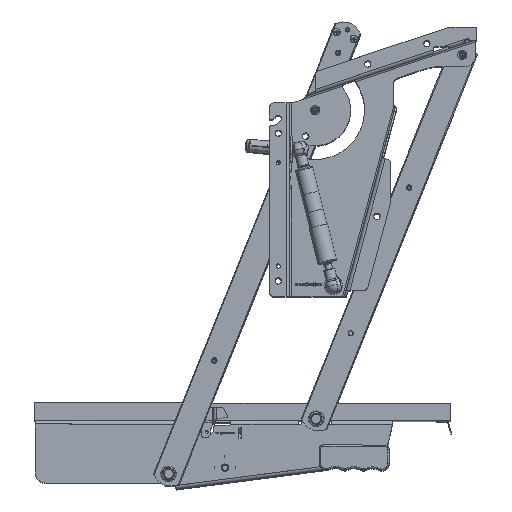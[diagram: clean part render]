
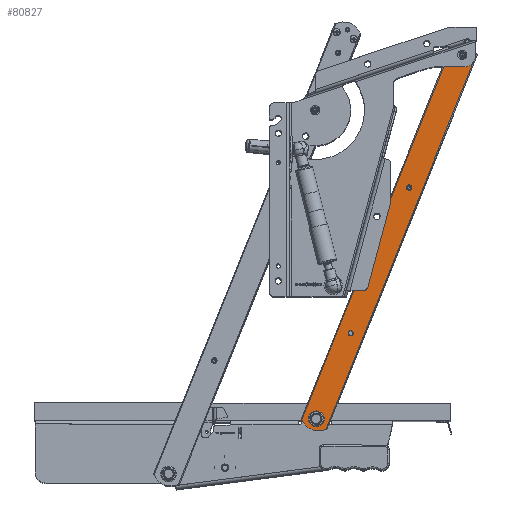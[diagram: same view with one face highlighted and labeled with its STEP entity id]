
A CAD part, top view. The second image highlights one B-rep face of the part: STEP entity #80827.
In plain terms, the highlighted planar face has unit normal (0, 0, 1).
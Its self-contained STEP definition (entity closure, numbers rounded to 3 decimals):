
#79488=DIRECTION('',(-0.372,-0.928,0.));
#79489=VECTOR('',#79488,438.566);
#79490=CARTESIAN_POINT('',(70.533,136.008,-32.));
#79491=LINE('',#79490,#79489);
#79492=CARTESIAN_POINT('',(78.207,117.539,-32.));
#79493=DIRECTION('',(0.,0.,-1.));
#79494=DIRECTION('',(-0.384,0.923,0.));
#79495=AXIS2_PLACEMENT_3D('',#79492,#79493,#79494);
#79497=DIRECTION('',(0.372,0.928,0.));
#79498=VECTOR('',#79497,438.566);
#79499=CARTESIAN_POINT('',(-66.791,-281.444,-32.));
#79500=LINE('',#79499,#79498);
#79501=CARTESIAN_POINT('',(-74.465,-262.975,-32.));
#79502=DIRECTION('',(0.,0.,-1.));
#79503=DIRECTION('',(0.384,-0.923,0.));
#79504=AXIS2_PLACEMENT_3D('',#79501,#79502,#79503);
#79506=CARTESIAN_POINT('',(81.,124.5,-32.));
#79507=DIRECTION('',(0.,0.,1.));
#79508=DIRECTION('',(-0.928,0.372,0.));
#79509=AXIS2_PLACEMENT_3D('',#79506,#79507,#79508);
#79511=CARTESIAN_POINT('',(81.,124.5,-32.));
#79512=DIRECTION('',(0.,0.,1.));
#79513=DIRECTION('',(0.928,-0.372,0.));
#79514=AXIS2_PLACEMENT_3D('',#79511,#79512,#79513);
#79516=CARTESIAN_POINT('',(-77.258,-269.935,-32.));
#79517=DIRECTION('',(0.,0.,1.));
#79518=DIRECTION('',(-0.928,0.372,0.));
#79519=AXIS2_PLACEMENT_3D('',#79516,#79517,#79518);
#79521=CARTESIAN_POINT('',(-77.258,-269.935,-32.));
#79522=DIRECTION('',(0.,0.,1.));
#79523=DIRECTION('',(0.928,-0.372,0.));
#79524=AXIS2_PLACEMENT_3D('',#79521,#79522,#79523);
#79526=CARTESIAN_POINT('',(-40.021,-177.127,-32.));
#79527=DIRECTION('',(0.,0.,-1.));
#79528=DIRECTION('',(-0.372,-0.928,0.));
#79529=AXIS2_PLACEMENT_3D('',#79526,#79527,#79528);
#79531=CARTESIAN_POINT('',(-40.021,-177.127,-32.));
#79532=DIRECTION('',(0.,0.,-1.));
#79533=DIRECTION('',(0.372,0.928,0.));
#79534=AXIS2_PLACEMENT_3D('',#79531,#79532,#79533);
#79536=CARTESIAN_POINT('',(23.282,-19.353,-32.));
#79537=DIRECTION('',(0.,0.,-1.));
#79538=DIRECTION('',(-0.66,-0.751,0.));
#79539=AXIS2_PLACEMENT_3D('',#79536,#79537,#79538);
#79541=CARTESIAN_POINT('',(23.282,-19.353,-32.));
#79542=DIRECTION('',(0.,0.,1.));
#79543=DIRECTION('',(-0.66,-0.751,0.));
#79544=AXIS2_PLACEMENT_3D('',#79541,#79542,#79543);
#79546=CARTESIAN_POINT('',(23.282,-19.353,-32.));
#79547=DIRECTION('',(0.,0.,-1.));
#79548=DIRECTION('',(0.751,-0.66,0.));
#79549=AXIS2_PLACEMENT_3D('',#79546,#79547,#79548);
#79551=CARTESIAN_POINT('',(23.282,-19.353,-32.));
#79552=DIRECTION('',(0.,0.,1.));
#79553=DIRECTION('',(0.751,-0.66,0.));
#79554=AXIS2_PLACEMENT_3D('',#79551,#79552,#79553);
#79556=CARTESIAN_POINT('',(23.282,-19.353,-32.));
#79557=DIRECTION('',(0.,0.,-1.));
#79558=DIRECTION('',(0.66,0.751,0.));
#79559=AXIS2_PLACEMENT_3D('',#79556,#79557,#79558);
#79561=CARTESIAN_POINT('',(23.282,-19.353,-32.));
#79562=DIRECTION('',(0.,0.,1.));
#79563=DIRECTION('',(0.66,0.751,0.));
#79564=AXIS2_PLACEMENT_3D('',#79561,#79562,#79563);
#79566=CARTESIAN_POINT('',(23.282,-19.353,-32.));
#79567=DIRECTION('',(0.,0.,-1.));
#79568=DIRECTION('',(-0.751,0.66,0.));
#79569=AXIS2_PLACEMENT_3D('',#79566,#79567,#79568);
#79571=CARTESIAN_POINT('',(23.282,-19.353,-32.));
#79572=DIRECTION('',(0.,0.,1.));
#79573=DIRECTION('',(-0.751,0.66,0.));
#79574=AXIS2_PLACEMENT_3D('',#79571,#79572,#79573);
#79666=CARTESIAN_POINT('',(-92.777,-271.017,-32.));
#79754=CARTESIAN_POINT('',(-66.791,-281.444,-32.));
#79817=CARTESIAN_POINT('',(96.519,125.582,-32.));
#79905=CARTESIAN_POINT('',(70.533,136.008,-32.));
#80501=CARTESIAN_POINT('',(75.246,126.809,-32.));
#80502=CARTESIAN_POINT('',(86.754,122.191,-32.));
#80503=VERTEX_POINT('',#80501);
#80504=VERTEX_POINT('',#80502);
#80505=CARTESIAN_POINT('',(-83.012,-267.627,-32.));
#80506=CARTESIAN_POINT('',(-71.504,-272.244,-32.));
#80507=VERTEX_POINT('',#80505);
#80508=VERTEX_POINT('',#80506);
#80517=CARTESIAN_POINT('',(-41.045,-179.679,-32.));
#80518=CARTESIAN_POINT('',(-38.997,-174.575,-32.));
#80519=VERTEX_POINT('',#80517);
#80520=VERTEX_POINT('',#80518);
#80531=VERTEX_POINT('',#79666);
#80535=VERTEX_POINT('',#79905);
#80536=VERTEX_POINT('',#79817);
#80540=VERTEX_POINT('',#79754);
#80609=CARTESIAN_POINT('',(21.03,-17.372,-32.));
#80610=CARTESIAN_POINT('',(20.285,-19.228,-32.));
#80611=VERTEX_POINT('',#80609);
#80612=VERTEX_POINT('',#80610);
#80613=CARTESIAN_POINT('',(25.535,-21.334,-32.));
#80614=CARTESIAN_POINT('',(26.28,-19.478,-32.));
#80615=VERTEX_POINT('',#80613);
#80616=VERTEX_POINT('',#80614);
#80617=CARTESIAN_POINT('',(25.264,-17.1,-32.));
#80618=CARTESIAN_POINT('',(23.407,-16.356,-32.));
#80619=VERTEX_POINT('',#80617);
#80620=VERTEX_POINT('',#80618);
#80621=CARTESIAN_POINT('',(21.301,-21.606,-32.));
#80622=CARTESIAN_POINT('',(23.157,-22.35,-32.));
#80623=VERTEX_POINT('',#80621);
#80624=VERTEX_POINT('',#80622);
#80778=CARTESIAN_POINT('',(1.871,-72.718,-32.));
#80779=DIRECTION('',(0.,0.,-1.));
#80780=DIRECTION('',(-0.928,0.372,0.));
#80781=AXIS2_PLACEMENT_3D('',#80778,#80779,#80780);
#80782=PLANE('',#80781);
#80784=ORIENTED_EDGE('',*,*,#80783,.F.);
#80786=ORIENTED_EDGE('',*,*,#80785,.T.);
#80788=ORIENTED_EDGE('',*,*,#80787,.F.);
#80790=ORIENTED_EDGE('',*,*,#80789,.T.);
#80791=EDGE_LOOP('',(#80784,#80786,#80788,#80790));
#80792=FACE_OUTER_BOUND('',#80791,.F.);
#80794=ORIENTED_EDGE('',*,*,#80793,.T.);
#80796=ORIENTED_EDGE('',*,*,#80795,.T.);
#80797=EDGE_LOOP('',(#80794,#80796));
#80798=FACE_BOUND('',#80797,.F.);
#80800=ORIENTED_EDGE('',*,*,#80799,.T.);
#80802=ORIENTED_EDGE('',*,*,#80801,.T.);
#80803=EDGE_LOOP('',(#80800,#80802));
#80804=FACE_BOUND('',#80803,.F.);
#80805=ORIENTED_EDGE('',*,*,#80758,.F.);
#80806=ORIENTED_EDGE('',*,*,#80772,.F.);
#80807=EDGE_LOOP('',(#80805,#80806));
#80808=FACE_BOUND('',#80807,.F.);
#80810=ORIENTED_EDGE('',*,*,#80809,.F.);
#80812=ORIENTED_EDGE('',*,*,#80811,.T.);
#80814=ORIENTED_EDGE('',*,*,#80813,.F.);
#80816=ORIENTED_EDGE('',*,*,#80815,.T.);
#80818=ORIENTED_EDGE('',*,*,#80817,.F.);
#80820=ORIENTED_EDGE('',*,*,#80819,.T.);
#80822=ORIENTED_EDGE('',*,*,#80821,.F.);
#80824=ORIENTED_EDGE('',*,*,#80823,.T.);
#80825=EDGE_LOOP('',(#80810,#80812,#80814,#80816,#80818,#80820,#80822,#80824));
#80826=FACE_BOUND('',#80825,.F.);
#79496=CIRCLE('',#79495,20.);
#79505=CIRCLE('',#79504,20.);
#79510=CIRCLE('',#79509,6.2);
#79515=CIRCLE('',#79514,6.2);
#79520=CIRCLE('',#79519,6.2);
#79525=CIRCLE('',#79524,6.2);
#79530=CIRCLE('',#79529,2.75);
#79535=CIRCLE('',#79534,2.75);
#79540=CIRCLE('',#79539,3.);
#79545=CIRCLE('',#79544,3.);
#79550=CIRCLE('',#79549,3.);
#79555=CIRCLE('',#79554,3.);
#79560=CIRCLE('',#79559,3.);
#79565=CIRCLE('',#79564,3.);
#79570=CIRCLE('',#79569,3.);
#79575=CIRCLE('',#79574,3.);
#80758=EDGE_CURVE('',#80519,#80520,#79530,.T.);
#80772=EDGE_CURVE('',#80520,#80519,#79535,.T.);
#80783=EDGE_CURVE('',#80535,#80531,#79491,.T.);
#80785=EDGE_CURVE('',#80535,#80536,#79496,.T.);
#80787=EDGE_CURVE('',#80540,#80536,#79500,.T.);
#80789=EDGE_CURVE('',#80540,#80531,#79505,.T.);
#80793=EDGE_CURVE('',#80503,#80504,#79510,.T.);
#80795=EDGE_CURVE('',#80504,#80503,#79515,.T.);
#80799=EDGE_CURVE('',#80507,#80508,#79520,.T.);
#80801=EDGE_CURVE('',#80508,#80507,#79525,.T.);
#80809=EDGE_CURVE('',#80623,#80612,#79540,.T.);
#80811=EDGE_CURVE('',#80623,#80624,#79545,.T.);
#80813=EDGE_CURVE('',#80615,#80624,#79550,.T.);
#80815=EDGE_CURVE('',#80615,#80616,#79555,.T.);
#80817=EDGE_CURVE('',#80619,#80616,#79560,.T.);
#80819=EDGE_CURVE('',#80619,#80620,#79565,.T.);
#80821=EDGE_CURVE('',#80611,#80620,#79570,.T.);
#80823=EDGE_CURVE('',#80611,#80612,#79575,.T.);
#80827=ADVANCED_FACE('',(#80792,#80798,#80804,#80808,#80826),#80782,.F.);
